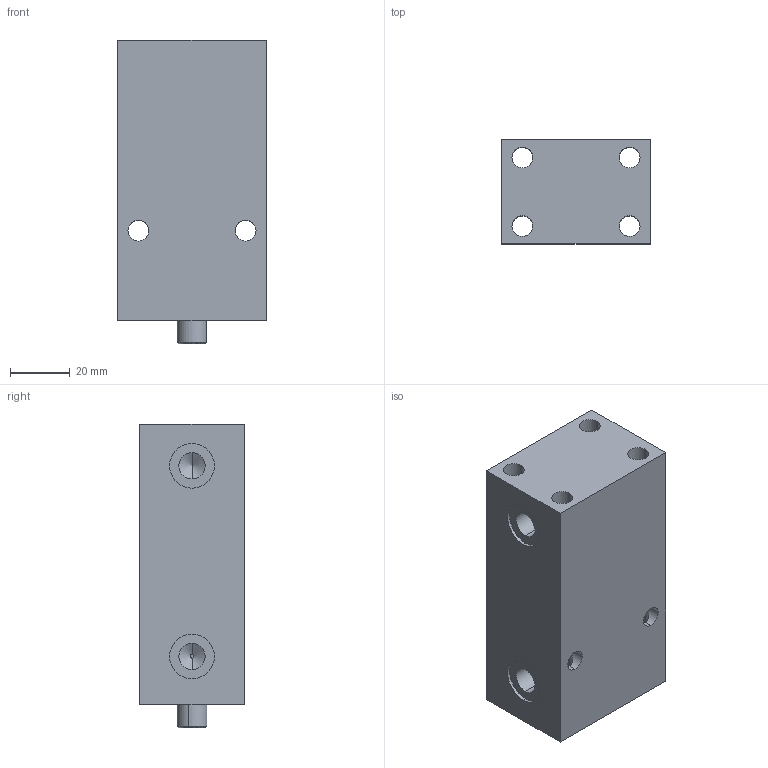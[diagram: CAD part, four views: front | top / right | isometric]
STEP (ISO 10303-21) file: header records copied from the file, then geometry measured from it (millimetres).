
FILE_DESCRIPTION (( 'STEP AP203' ), '1' );
FILE_NAME ('Block cylinder B01C-0050F.STEP', '2022-07-09T18:23:58', ( '' ), ( '' ), 'SwSTEP 2.0', 'SolidWorks 2017', '' );
FILE_SCHEMA (( 'CONFIG_CONTROL_DESIGN' ));
Length unit declared in the file: millimetre
Products named in the file (3): Body_0050F; Piston_0050F; Block cylinder B01C-0050F
Assembly tree (2 placements, depth 2):
  Block cylinder B01C-0050F
    Body_0050F
    Piston_0050F
Bounding box: 50 x 35 x 102 mm (x, y, z)
Volume: 148451.2 mm3; surface area: 34186.7 mm2
Topology: 2 solids, 2 shells, 362 faces, 986 edges, 644 vertices
Faces by surface type: bspline 178, plane 132, cylinder 44, cone 8
Entity records: 18809 total; most frequent: CARTESIAN_POINT 10631, ORIENTED_EDGE 1964, DIRECTION 1028, EDGE_CURVE 982, VERTEX_POINT 644, LINE 534, VECTOR 534, EDGE_LOOP 404
